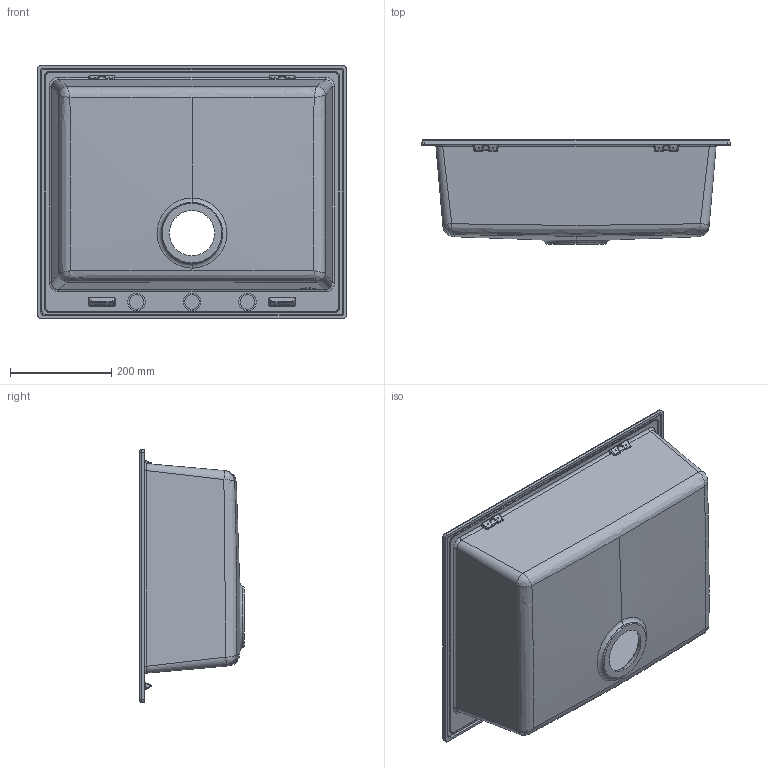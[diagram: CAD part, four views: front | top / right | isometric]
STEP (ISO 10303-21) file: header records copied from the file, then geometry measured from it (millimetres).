
FILE_DESCRIPTION (( 'STEP AP203' ), '1' );
FILE_NAME ('Quadra110.STEP', '2018-11-14T15:21:05', ( '' ), ( '' ), 'SwSTEP 2.0', 'SolidWorks 2013', '' );
FILE_SCHEMA (( 'CONFIG_CONTROL_DESIGN' ));
Length unit declared in the file: millimetre
Products named in the file (1): Quadra110
Bounding box: 610 x 206.69 x 500 mm (x, y, z)
Volume: 4842637.7 mm3; surface area: 1210386.7 mm2
Topology: 1 solids, 1 shells, 439 faces, 1051 edges, 586 vertices
Faces by surface type: bspline 187, cylinder 160, plane 48, cone 26, torus 10, sphere 8
Entity records: 21591 total; most frequent: CARTESIAN_POINT 13138, ORIENTED_EDGE 1998, DIRECTION 1456, EDGE_CURVE 999, AXIS2_PLACEMENT_3D 590, VERTEX_POINT 582, EDGE_LOOP 463, FACE_OUTER_BOUND 439
